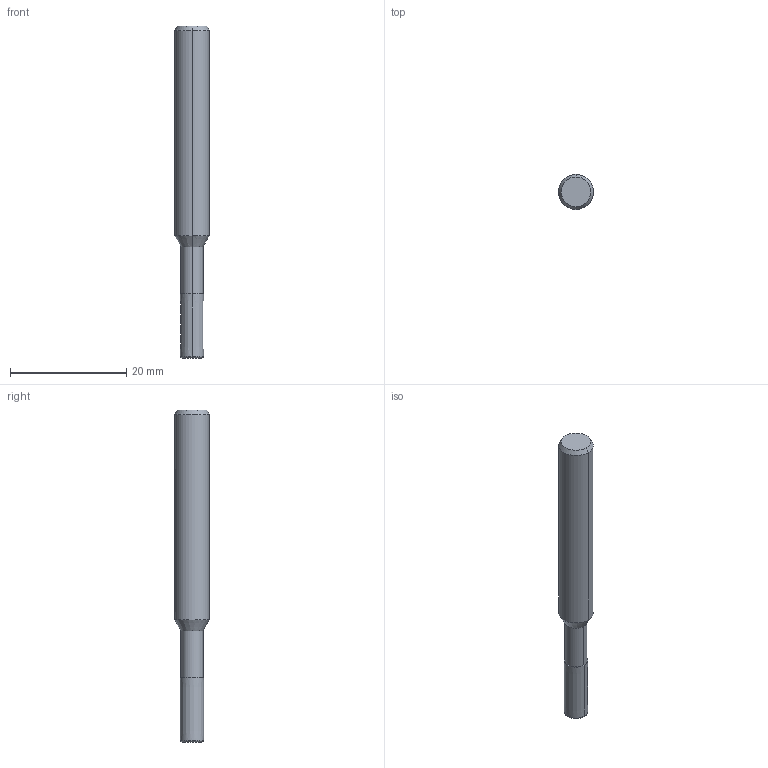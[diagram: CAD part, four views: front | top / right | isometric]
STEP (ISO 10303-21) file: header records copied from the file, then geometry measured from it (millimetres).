
FILE_DESCRIPTION(('no description'),'unknown implementation level');
FILE_NAME('solidzDNzIRzcAEQRO5vLnuXbhwm_kFY_1.STP',' ',('CIMSOURCE GmbH'),('CADClick - KiM GmbH - www.kimweb.de'),'unknown preprocess','ACIS','unknown authorization');
FILE_SCHEMA(('automotive_design'));
Length unit declared in the file: millimetre
Products named in the file (2): NOCUT; CUT
Bounding box: 6 x 6 x 57 mm (x, y, z)
Volume: 1280.7 mm3; surface area: 1138.9 mm2
Topology: 2 solids, 2 shells, 42 faces, 95 edges, 58 vertices
Faces by surface type: cylinder 16, cone 14, plane 10, torus 2
Entity records: 2528 total; most frequent: CARTESIAN_POINT 417, DIRECTION 217, STYLED_ITEM 197, PRESENTATION_STYLE_ASSIGNMENT 197, COLOUR_RGB 197, ORIENTED_EDGE 190, EDGE_CURVE 95, CURVE_STYLE 95
